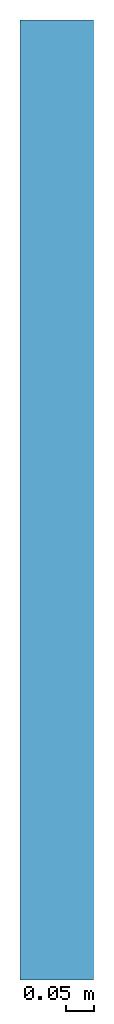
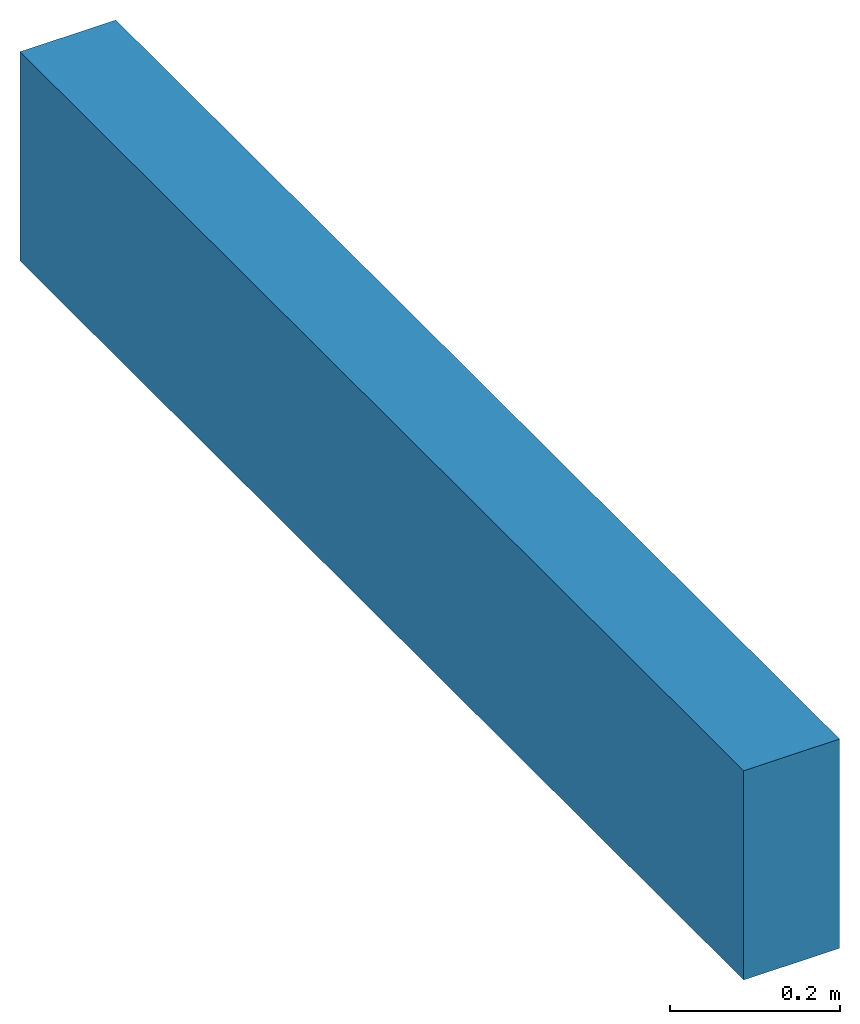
# One storey: 1 wall.
"""IFC2X3 building model written with IfcOpenShell, lengths in millimetres."""

from ifc_helpers import new_model, entity, si_unit, converted_unit, derived_unit, direction, frame, origin_with_axes, place, context, subcontext, project, spatial, faceted_brep, material, layer, layer_set, type_object, element, save


model = new_model("IFC2X3")

# Units and contexts
model_context = context("Model", 3, precision=0.01, world=frame((0.0, 4.29681676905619e-09, 0.0)), true_north=direction((4.01073788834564e-13, 1.0)))
plan_context = context("Plan", 3, precision=0.01, world=frame((0.0, 4.29681676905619e-09, 0.0)), true_north=direction((4.01073788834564e-13, 1.0)))
body_context = subcontext(model_context, "Body", "Model", "MODEL_VIEW")
ifc_project = project(units=[converted_unit("PLANEANGLEUNIT", "DEGREE", entity("IfcPositiveLengthMeasure", 0.0174532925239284), si_unit("PLANEANGLEUNIT", "RADIAN"), dimensions=[0, 0, 0, 0, 0, 0, 0]), si_unit("AREAUNIT", "SQUARE_METRE"), si_unit("LENGTHUNIT", "METRE", prefix="MILLI"), si_unit("MASSUNIT", "GRAM", prefix="KILO"), si_unit("POWERUNIT", "WATT"), si_unit("PRESSUREUNIT", "PASCAL"), si_unit("FORCEUNIT", "NEWTON", prefix="KILO"), si_unit("ELECTRICVOLTAGEUNIT", "VOLT"), si_unit("ELECTRICCURRENTUNIT", "AMPERE"), si_unit("THERMODYNAMICTEMPERATUREUNIT", "DEGREE_CELSIUS"), si_unit("TIMEUNIT", "SECOND"), si_unit("VOLUMEUNIT", "CUBIC_METRE"), derived_unit("LINEARVELOCITYUNIT", [(si_unit("LENGTHUNIT", "METRE"), 1), (si_unit("TIMEUNIT", "SECOND"), -1)]), derived_unit("VOLUMETRICFLOWRATEUNIT", [(si_unit("VOLUMEUNIT", "CUBIC_METRE"), 1), (si_unit("TIMEUNIT", "SECOND"), -1)]), derived_unit("THERMALTRANSMITTANCEUNIT", [(si_unit("POWERUNIT", "WATT"), 1), (si_unit("THERMODYNAMICTEMPERATUREUNIT", "KELVIN"), -1), (si_unit("AREAUNIT", "SQUARE_METRE"), -1)]), derived_unit("SOUNDPRESSUREUNIT", [(si_unit("PRESSUREUNIT", "PASCAL"), 1)])], contexts=[model_context, plan_context])

# Site, building, storey
site_placement = place(None, origin_with_axes())
site = spatial("IfcSite", under=ifc_project, at=site_placement, Name="ENGM", CompositionType="ELEMENT")
building_placement = place(site_placement, origin_with_axes())
building = spatial("IfcBuilding", under=site, at=building_placement, Name="TS", CompositionType="ELEMENT")
storey_placement = place(building_placement, frame((0.0, 0.0, 207370.000000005), z_axis=(0.0, 0.0, 1.0), x_axis=(1.0, 0.0, 0.0)))
storey = spatial("IfcBuildingStorey", under=building, at=storey_placement, Name="Nivå E", CompositionType="ELEMENT", Elevation=207370.000000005)

# Wall
ifc_material_1 = material(Name="T2_Gips Protect F")
ifc_layer_1 = layer(ifc_material_1, 15.0)
ifc_material_2 = material(Name="_NSW Stålstender, uisolert")
ifc_layer_2 = layer(ifc_material_2, 100.0)
ifc_layer_3 = layer(ifc_material_1, 15.0)
ifc_layer_set = layer_set([ifc_layer_1, ifc_layer_2, ifc_layer_3], Name="Basic Wall:A241 - FVF-100 (100/100 p-p)")
wall_type = type_object("IfcWallType", Name="Basic Wall:A241 - FVF-100 (100/100 p-p)", PredefinedType="STANDARD", material=ifc_layer_set)
wall_placement = place(storey_placement, frame((536265.000000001, 448600.237500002, 0.0), z_axis=(0.0, 0.0, 1.0), x_axis=(0.0, 1.0, 0.0)))
element("IfcWall", 1, at=wall_placement, inside=storey, type_object=wall_type, Name="Basic Wall:A241 - FVF-100 (100/100 p-p)", ObjectType="Basic Wall:A241 - FVF-100 (100/100 p-p)", context=body_context, shape_type="Brep", body=[
    faceted_brep([(0.0, -65.0000000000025, 2529.99999999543), (0.0, 65.0000000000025, 2529.99999999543), (0.0, 65.0000000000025, 2829.99999999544), (0.0, -65.0000000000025, 2829.99999999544), (1700.01875000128, -65.0000000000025, 2529.99999999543), (1700.01875000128, -65.0000000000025, 2829.99999999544), (1700.01875000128, 65.0000000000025, 2529.99999999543), (1700.01875000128, 65.0000000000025, 2829.99999999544)], [[[0, 1, 2, 3]], [[4, 0, 3, 5]], [[6, 4, 5, 7]], [[1, 6, 7, 2]], [[3, 2, 7, 5]], [[4, 6, 1, 0]]], orient=[[False], [False], [False], [False], [False], [False]]),
])

save(model, "model.ifc")
